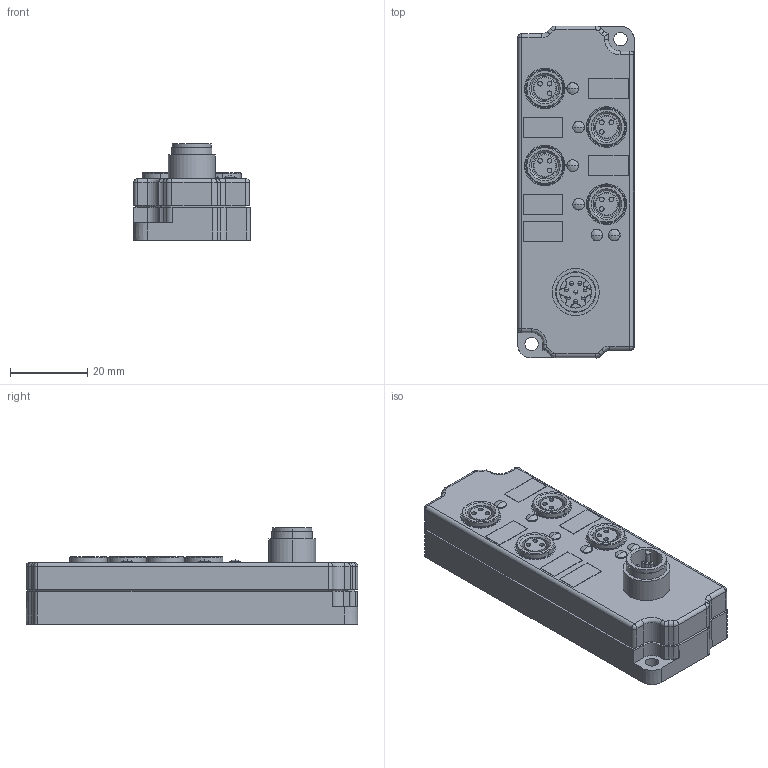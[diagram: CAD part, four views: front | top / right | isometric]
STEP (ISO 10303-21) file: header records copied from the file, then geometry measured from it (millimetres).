
FILE_DESCRIPTION (( 'STEP AP214' ), '1' );
FILE_NAME ('4MBM8-Mini_C+R.STEP', '2015-02-02T14:51:39', ( 'sar' ), ( 'Hewlett-Packard Company' ), 'SwSTEP 2.0', 'SolidWorks 2014', '' );
FILE_SCHEMA (( 'AUTOMOTIVE_DESIGN' ));
Length unit declared in the file: millimetre
Products named in the file (1): 4MBM8-Mini_C+R
Bounding box: 30.3 x 86.06 x 25 mm (x, y, z)
Volume: 32263.8 mm3; surface area: 19562 mm2
Topology: 1 solids, 21 shells, 749 faces, 1925 edges, 1212 vertices
Faces by surface type: cylinder 291, plane 249, cone 112, torus 57, bspline 24, sphere 16
Entity records: 31498 total; most frequent: CARTESIAN_POINT 5557, DIRECTION 4315, ORIENTED_EDGE 3778, EDGE_CURVE 1889, AXIS2_PLACEMENT_3D 1744, VERTEX_POINT 1196, CIRCLE 1018, EDGE_LOOP 863
